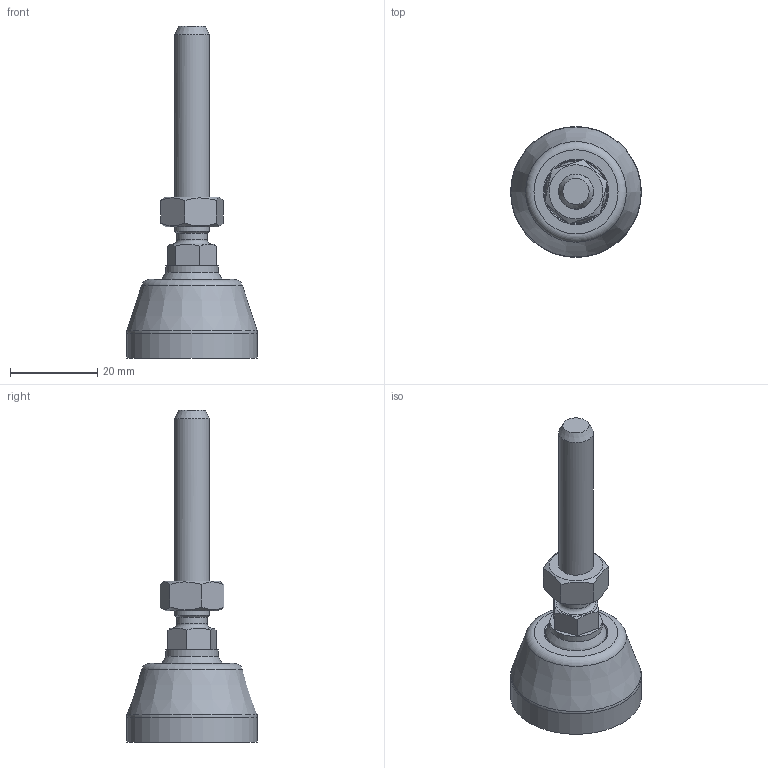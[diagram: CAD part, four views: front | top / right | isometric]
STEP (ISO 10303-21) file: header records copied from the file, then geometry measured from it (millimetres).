
FILE_DESCRIPTION(('STEP AP203'), '1');
FILE_NAME('栖闉罻', '', ('UNSPECIFIED'), ('UNSPECIFIED'), 'C3D Converter', 'C3D Toolkit', '');
FILE_SCHEMA(('CONFIG_CONTROL_DESIGN'));
Length unit declared in the file: millimetre
Products named in the file (4): A00015.1030; A00020.108080
Assembly tree (3 placements, depth 3):
  (unnamed)
    A00015.1030
    A00020.108080
      (unnamed)
Bounding box: 30 x 30 x 76.1 mm (x, y, z)
Volume: 5373.3 mm3; surface area: 10986.1 mm2
Topology: 2 solids, 3 shells, 214 faces, 584 edges, 340 vertices
Faces by surface type: plane 142, cylinder 34, torus 21, cone 15, sphere 2
Full cylindrical faces by diameter (mm): 6.647 x1, 7 x1, 8 x2, 8.3 x1, 12 x1, 14.2 x1, 15 x1, 20.6 x1, 30 x1
Entity records: 12202 total; most frequent: CARTESIAN_POINT 5328, ORIENTED_EDGE 1034, DIRECTION 1000, EDGE_CURVE 533, AXIS2_PLACEMENT_3D 395, VERTEX_POINT 339, EDGE_LOOP 246, FACE_BOUND 228
